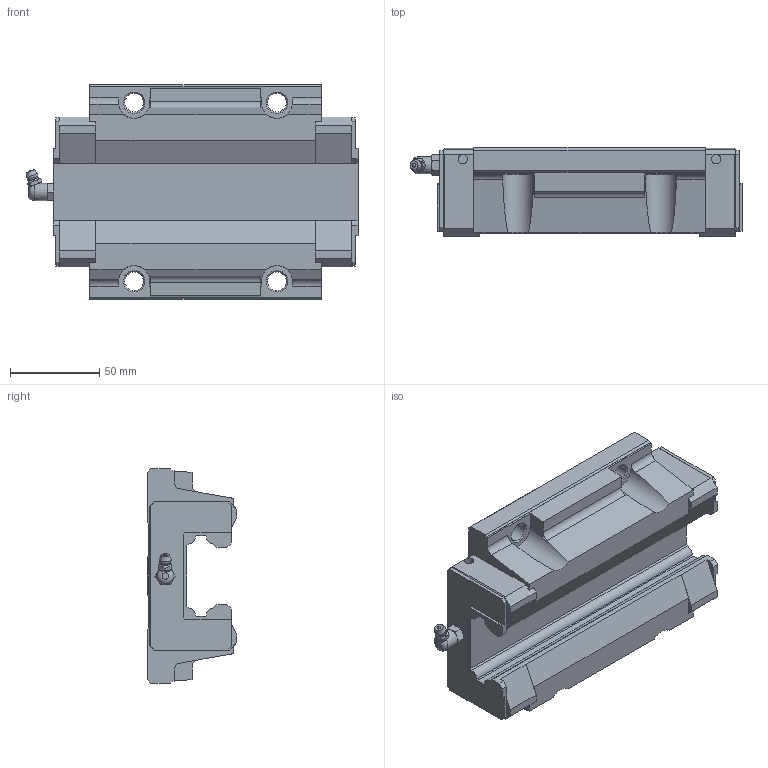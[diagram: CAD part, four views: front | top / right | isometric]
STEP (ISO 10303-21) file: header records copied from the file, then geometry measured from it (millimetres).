
FILE_DESCRIPTION(/* description */ ('STEP AP214'),/* implementation_level */ '2;1');
FILE_NAME(/* name */ 'HSR45LC1SS(GK) BLOCK(B-PT1_81)',/* time_stamp */ '2023-05-29T22:06:28+02:00',/* author */ ('License CC BY-ND 4.0'),/* organization */ ('CADENAS'),/* preprocessor_version */ 'ST-DEVELOPER v19.3',/* originating_system */ 'PARTsolutions',/* authorisation */ ' ');
FILE_SCHEMA (('AUTOMOTIVE_DESIGN {1 0 10303 214 3 1 1}'));
Length unit declared in the file: millimetre
Products named in the file (3): HSR45LC1SS(GK) BLOCK(B-PT1/81); hsr_ftht_B-PT1/8_grease_nipple_joint; HSR45LCSSB-PT1/811 S
Assembly tree (2 placements, depth 2):
  HSR45LC1SS(GK) BLOCK(B-PT1/81)
    hsr_ftht_B-PT1/8_grease_nipple_joint
    HSR45LCSSB-PT1/811 S
Bounding box: 186 x 50 x 120 mm (x, y, z)
Volume: 603809.6 mm3; surface area: 74067 mm2
Topology: 2 solids, 2 shells, 229 faces, 632 edges, 411 vertices
Faces by surface type: plane 171, cylinder 33, cone 20, torus 3, sphere 2
Full cylindrical faces by diameter (mm): 5.2 x4, 9.6 x1, 10.2 x2, 10.5 x4
Entity records: 7012 total; most frequent: CARTESIAN_POINT 1351, ORIENTED_EDGE 1150, DIRECTION 1106, EDGE_CURVE 575, LINE 438, VECTOR 438, VERTEX_POINT 392, AXIS2_PLACEMENT_3D 334
